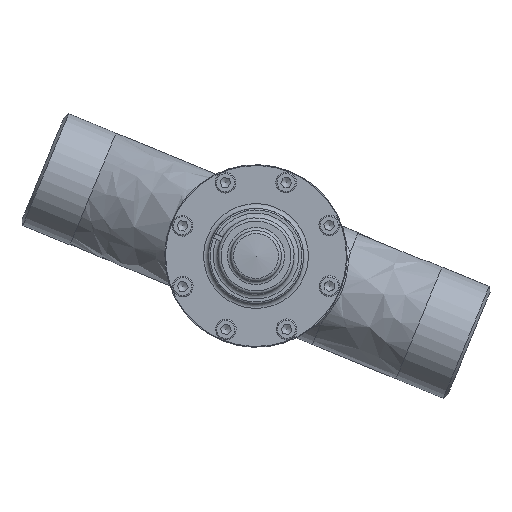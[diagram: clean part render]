
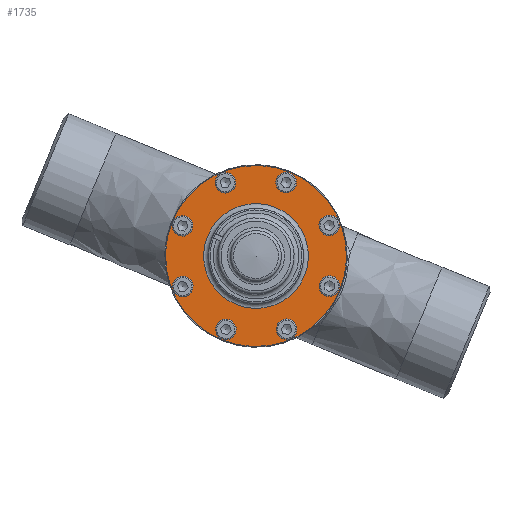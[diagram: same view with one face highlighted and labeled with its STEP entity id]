
A CAD part, left-side view. The second image highlights one B-rep face of the part: STEP entity #1735.
In plain terms, the highlighted planar face has unit normal (-1, 0, 0) as drawn and (0, 0, -1) by its records, which use the part's own axes.
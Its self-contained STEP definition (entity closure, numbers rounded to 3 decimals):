
#1620=CARTESIAN_POINT('',(0.0,0.0,-14.));
#1621=DIRECTION('',(0.0,0.0,1.0));
#1622=DIRECTION('',(1.0,0.0,0.0));
#1623=AXIS2_PLACEMENT_3D('',#1620,#1621,#1622);
#1624=PLANE('',#1623);
#1625=CARTESIAN_POINT('',(57.0,0.0,-14.));
#1626=VERTEX_POINT('',#1625);
#1627=CARTESIAN_POINT('',(0.0,0.0,-14.));
#1628=DIRECTION('',(0.0,0.0,1.0));
#1629=DIRECTION('',(1.0,0.0,0.0));
#1630=AXIS2_PLACEMENT_3D('',#1627,#1628,#1629);
#1631=CIRCLE('',#1630,57.0);
#1632=EDGE_CURVE('',#1626,#1626,#1631,.T.);
#1633=ORIENTED_EDGE('',*,*,#1632,.F.);
#1634=EDGE_LOOP('',(#1633));
#1635=FACE_OUTER_BOUND('',#1634,.T.);
#1636=CARTESIAN_POINT('',(32.173,38.537,-14.));
#1637=VERTEX_POINT('',#1636);
#1638=CARTESIAN_POINT('',(35.355,35.355,-14.));
#1639=DIRECTION('',(0.0,0.0,-1.0));
#1640=DIRECTION('',(-0.707,0.707,0.0));
#1641=AXIS2_PLACEMENT_3D('',#1638,#1639,#1640);
#1642=CIRCLE('',#1641,4.5);
#1643=EDGE_CURVE('',#1637,#1637,#1642,.T.);
#1644=ORIENTED_EDGE('',*,*,#1643,.F.);
#1645=EDGE_LOOP('',(#1644));
#1646=FACE_BOUND('',#1645,.T.);
#1647=CARTESIAN_POINT('',(50.,4.5,-14.));
#1648=VERTEX_POINT('',#1647);
#1649=CARTESIAN_POINT('',(50.0,0.,-14.));
#1650=DIRECTION('',(0.0,0.0,-1.0));
#1651=DIRECTION('',(0.0,1.0,0.0));
#1652=AXIS2_PLACEMENT_3D('',#1649,#1650,#1651);
#1653=CIRCLE('',#1652,4.5);
#1654=EDGE_CURVE('',#1648,#1648,#1653,.T.);
#1655=ORIENTED_EDGE('',*,*,#1654,.F.);
#1656=EDGE_LOOP('',(#1655));
#1657=FACE_BOUND('',#1656,.T.);
#1658=CARTESIAN_POINT('',(38.537,-32.173,-14.));
#1659=VERTEX_POINT('',#1658);
#1660=CARTESIAN_POINT('',(35.355,-35.355,-14.));
#1661=DIRECTION('',(0.0,0.0,-1.0));
#1662=DIRECTION('',(0.707,0.707,0.0));
#1663=AXIS2_PLACEMENT_3D('',#1660,#1661,#1662);
#1664=CIRCLE('',#1663,4.5);
#1665=EDGE_CURVE('',#1659,#1659,#1664,.T.);
#1666=ORIENTED_EDGE('',*,*,#1665,.F.);
#1667=EDGE_LOOP('',(#1666));
#1668=FACE_BOUND('',#1667,.T.);
#1669=CARTESIAN_POINT('',(4.5,-50.,-14.));
#1670=VERTEX_POINT('',#1669);
#1671=CARTESIAN_POINT('',(0.,-50.0,-14.));
#1672=DIRECTION('',(0.0,0.0,-1.0));
#1673=DIRECTION('',(1.0,0.0,0.0));
#1674=AXIS2_PLACEMENT_3D('',#1671,#1672,#1673);
#1675=CIRCLE('',#1674,4.5);
#1676=EDGE_CURVE('',#1670,#1670,#1675,.T.);
#1677=ORIENTED_EDGE('',*,*,#1676,.F.);
#1678=EDGE_LOOP('',(#1677));
#1679=FACE_BOUND('',#1678,.T.);
#1680=CARTESIAN_POINT('',(-32.173,-38.537,-14.));
#1681=VERTEX_POINT('',#1680);
#1682=CARTESIAN_POINT('',(-35.355,-35.355,-14.));
#1683=DIRECTION('',(0.0,0.0,-1.0));
#1684=DIRECTION('',(0.707,-0.707,0.0));
#1685=AXIS2_PLACEMENT_3D('',#1682,#1683,#1684);
#1686=CIRCLE('',#1685,4.5);
#1687=EDGE_CURVE('',#1681,#1681,#1686,.T.);
#1688=ORIENTED_EDGE('',*,*,#1687,.F.);
#1689=EDGE_LOOP('',(#1688));
#1690=FACE_BOUND('',#1689,.T.);
#1691=CARTESIAN_POINT('',(-50.,-4.5,-14.));
#1692=VERTEX_POINT('',#1691);
#1693=CARTESIAN_POINT('',(-50.0,0.,-14.));
#1694=DIRECTION('',(0.0,0.0,-1.0));
#1695=DIRECTION('',(0.0,-1.0,0.0));
#1696=AXIS2_PLACEMENT_3D('',#1693,#1694,#1695);
#1697=CIRCLE('',#1696,4.5);
#1698=EDGE_CURVE('',#1692,#1692,#1697,.T.);
#1699=ORIENTED_EDGE('',*,*,#1698,.F.);
#1700=EDGE_LOOP('',(#1699));
#1701=FACE_BOUND('',#1700,.T.);
#1702=CARTESIAN_POINT('',(-38.537,32.173,-14.));
#1703=VERTEX_POINT('',#1702);
#1704=CARTESIAN_POINT('',(-35.355,35.355,-14.));
#1705=DIRECTION('',(0.0,0.0,-1.0));
#1706=DIRECTION('',(-0.707,-0.707,0.0));
#1707=AXIS2_PLACEMENT_3D('',#1704,#1705,#1706);
#1708=CIRCLE('',#1707,4.5);
#1709=EDGE_CURVE('',#1703,#1703,#1708,.T.);
#1710=ORIENTED_EDGE('',*,*,#1709,.F.);
#1711=EDGE_LOOP('',(#1710));
#1712=FACE_BOUND('',#1711,.T.);
#1713=CARTESIAN_POINT('',(-4.5,50.0,-14.));
#1714=VERTEX_POINT('',#1713);
#1715=CARTESIAN_POINT('',(0.0,50.0,-14.));
#1716=DIRECTION('',(0.0,0.0,-1.0));
#1717=DIRECTION('',(-1.0,0.0,0.0));
#1718=AXIS2_PLACEMENT_3D('',#1715,#1716,#1717);
#1719=CIRCLE('',#1718,4.5);
#1720=EDGE_CURVE('',#1714,#1714,#1719,.T.);
#1721=ORIENTED_EDGE('',*,*,#1720,.F.);
#1722=EDGE_LOOP('',(#1721));
#1723=FACE_BOUND('',#1722,.T.);
#1724=CARTESIAN_POINT('',(33.0,0.0,-14.));
#1725=VERTEX_POINT('',#1724);
#1726=CARTESIAN_POINT('',(0.0,0.0,-14.));
#1727=DIRECTION('',(0.0,0.0,1.0));
#1728=DIRECTION('',(1.0,0.0,0.0));
#1729=AXIS2_PLACEMENT_3D('',#1726,#1727,#1728);
#1730=CIRCLE('',#1729,33.0);
#1731=EDGE_CURVE('',#1725,#1725,#1730,.T.);
#1732=ORIENTED_EDGE('',*,*,#1731,.T.);
#1733=EDGE_LOOP('',(#1732));
#1734=FACE_BOUND('',#1733,.T.);
#1735=ADVANCED_FACE('',(#1635,#1646,#1657,#1668,#1679,#1690,#1701,#1712,#1723,#1734),#1624,.F.);
